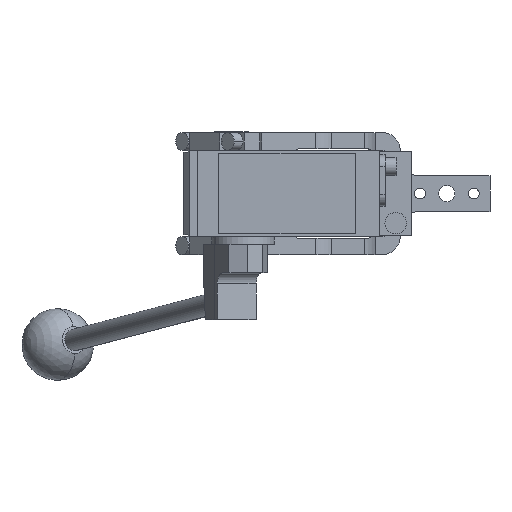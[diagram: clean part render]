
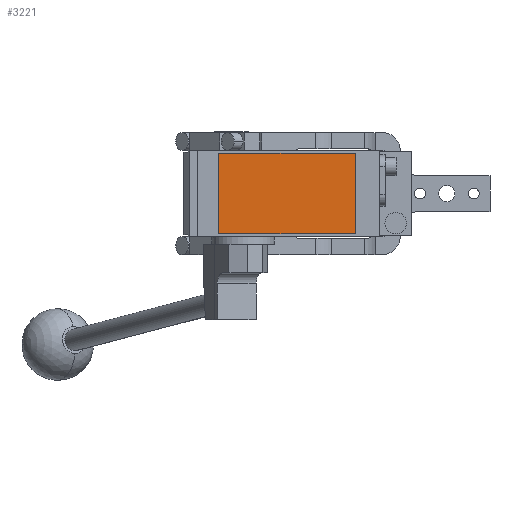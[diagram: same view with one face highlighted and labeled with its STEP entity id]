
A CAD part, front view. The second image highlights one B-rep face of the part: STEP entity #3221.
In plain terms, the highlighted planar face has unit normal (0, -1, 0).
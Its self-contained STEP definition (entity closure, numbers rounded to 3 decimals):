
#399 = LINE ( 'NONE', #12840, #11294 ) ;
#423 = EDGE_LOOP ( 'NONE', ( #10922, #8980, #5305, #10225 ) ) ;
#583 = FACE_OUTER_BOUND ( 'NONE', #423, .T. ) ;
#1071 = VERTEX_POINT ( 'NONE', #14414 ) ;
#1316 = EDGE_CURVE ( 'NONE', #7527, #11004, #5758, .T. ) ;
#1828 = PLANE ( 'NONE',  #11546 ) ;
#2550 = EDGE_CURVE ( 'NONE', #1071, #7527, #8994, .T. ) ;
#2705 = CARTESIAN_POINT ( 'NONE',  ( -7., -280.5, 22.5 ) ) ;
#3221 = ADVANCED_FACE ( 'NONE', ( #583 ), #1828, .T. ) ;
#5305 = ORIENTED_EDGE ( 'NONE', *, *, #1316, .T. ) ;
#5335 = CARTESIAN_POINT ( 'NONE',  ( 69., -280.5, -22.5 ) ) ;
#5493 = LINE ( 'NONE', #8923, #11763 ) ;
#5758 = LINE ( 'NONE', #9134, #11913 ) ;
#6449 = DIRECTION ( 'NONE',  ( 0., -1., 0. ) ) ;
#6911 = EDGE_CURVE ( 'NONE', #7806, #1071, #5493, .T. ) ;
#7375 = EDGE_CURVE ( 'NONE', #11004, #7806, #399, .T. ) ;
#7527 = VERTEX_POINT ( 'NONE', #5335 ) ;
#7806 = VERTEX_POINT ( 'NONE', #2705 ) ;
#8524 = VECTOR ( 'NONE', #14649, 1000. ) ;
#8923 = CARTESIAN_POINT ( 'NONE',  ( -7., -280.5, 22.5 ) ) ;
#8980 = ORIENTED_EDGE ( 'NONE', *, *, #2550, .T. ) ;
#8994 = LINE ( 'NONE', #11325, #8524 ) ;
#9134 = CARTESIAN_POINT ( 'NONE',  ( 69., -280.5, 22.5 ) ) ;
#9458 = DIRECTION ( 'NONE',  ( -1., 0., 0. ) ) ;
#9710 = CARTESIAN_POINT ( 'NONE',  ( 0., -280.5, 0. ) ) ;
#9775 = DIRECTION ( 'NONE',  ( 0., 0., -1. ) ) ;
#10225 = ORIENTED_EDGE ( 'NONE', *, *, #7375, .T. ) ;
#10922 = ORIENTED_EDGE ( 'NONE', *, *, #6911, .T. ) ;
#11004 = VERTEX_POINT ( 'NONE', #14111 ) ;
#11294 = VECTOR ( 'NONE', #9458, 1000. ) ;
#11325 = CARTESIAN_POINT ( 'NONE',  ( -7., -280.5, -22.5 ) ) ;
#11546 = AXIS2_PLACEMENT_3D ( 'NONE', #9710, #6449, #9775 ) ;
#11763 = VECTOR ( 'NONE', #13512, 1000. ) ;
#11913 = VECTOR ( 'NONE', #13732, 1000. ) ;
#12840 = CARTESIAN_POINT ( 'NONE',  ( -7., -280.5, 22.5 ) ) ;
#13512 = DIRECTION ( 'NONE',  ( 0., 0., -1. ) ) ;
#13732 = DIRECTION ( 'NONE',  ( 0., 0., 1. ) ) ;
#14111 = CARTESIAN_POINT ( 'NONE',  ( 69., -280.5, 22.5 ) ) ;
#14414 = CARTESIAN_POINT ( 'NONE',  ( -7., -280.5, -22.5 ) ) ;
#14649 = DIRECTION ( 'NONE',  ( 1., 0., 0. ) ) ;
